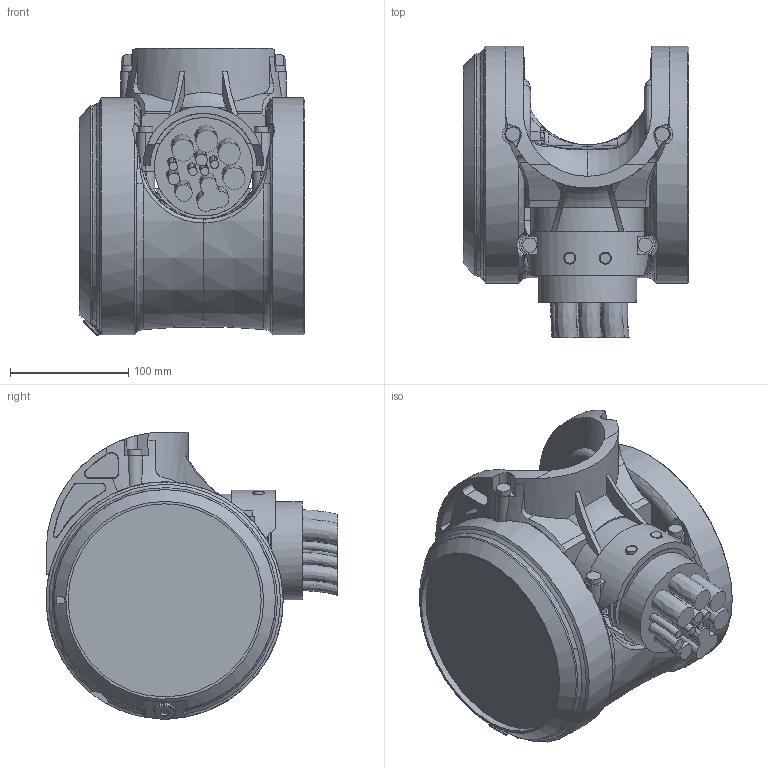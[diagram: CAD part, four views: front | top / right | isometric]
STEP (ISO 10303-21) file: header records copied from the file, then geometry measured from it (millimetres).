
FILE_DESCRIPTION (( 'STEP AP214' ), '1' );
FILE_NAME ('IRB6750S-LID_185kg-390_OC_00_LINK06_CABLE.step', '2026-05-13T05:40:59', ( '' ), ( '' ), 'SwSTEP 2.0', 'SolidWorks 2024', '' );
FILE_SCHEMA (( 'AUTOMOTIVE_DESIGN' ));
Length unit declared in the file: millimetre
Products named in the file (1): IRB6750S-LID_185kg-390_OC_00_LINK06_CABLE
Bounding box: 190.5 x 246.09 x 242.9 mm (x, y, z)
Volume: 3702833 mm3; surface area: 348629 mm2
Topology: 1 solids, 1 shells, 638 faces, 1664 edges, 1033 vertices
Faces by surface type: bspline 201, plane 159, cylinder 129, cone 82, torus 63, sphere 4
Full cylindrical faces by diameter (mm): 6.75 x1, 8.5 x4, 10 x2, 10.2 x11, 12 x5, 17.9 x1, 18 x1, 83 x1, 163 x1, 200 x2
Entity records: 37391 total; most frequent: CARTESIAN_POINT 16935, ORIENTED_EDGE 3128, DIRECTION 2301, EDGE_CURVE 1564, VERTEX_POINT 1009, AXIS2_PLACEMENT_3D 966, EDGE_LOOP 743, FACE_OUTER_BOUND 679
